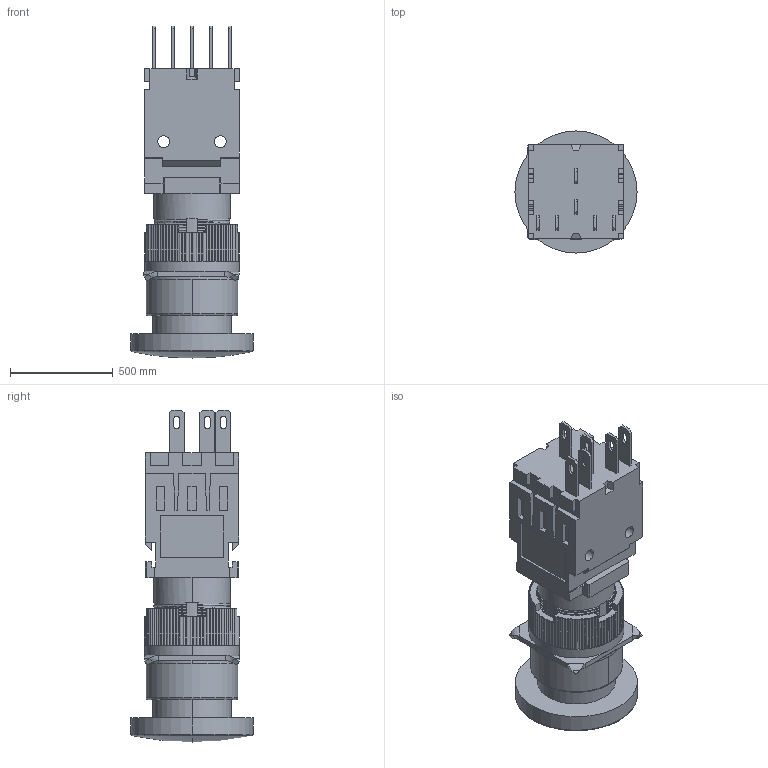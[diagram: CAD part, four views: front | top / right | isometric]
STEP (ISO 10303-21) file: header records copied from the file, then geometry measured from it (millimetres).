
FILE_DESCRIPTION((''),'2;1');
FILE_NAME('PRT0002','2016-06-03T',('Administrator'),(''),'PRO/ENGINEER BY PARAMETRIC TECHNOLOGY CORPORATION, 2012360','PRO/ENGINEER BY PARAMETRIC TECHNOLOGY CORPORATION, 2012360','');
FILE_SCHEMA(('CONFIG_CONTROL_DESIGN'));
Length unit declared in the file: inch
Products named in the file (1): PRT0002
Bounding box: 594.36 x 594.36 x 1615.44 mm (x, y, z)
Volume: 238657977.8 mm3; surface area: 4662709.8 mm2
Topology: 1 solids, 5 shells, 888 faces, 2406 edges, 1541 vertices
Faces by surface type: plane 432, cylinder 357, bspline 93, torus 4, sphere 2
Entity records: 38060 total; most frequent: CARTESIAN_POINT 16080, ORIENTED_EDGE 4808, DIRECTION 4344, EDGE_CURVE 2404, AXIS2_PLACEMENT_3D 1543, VERTEX_POINT 1541, VECTOR 1258, LINE 1258
